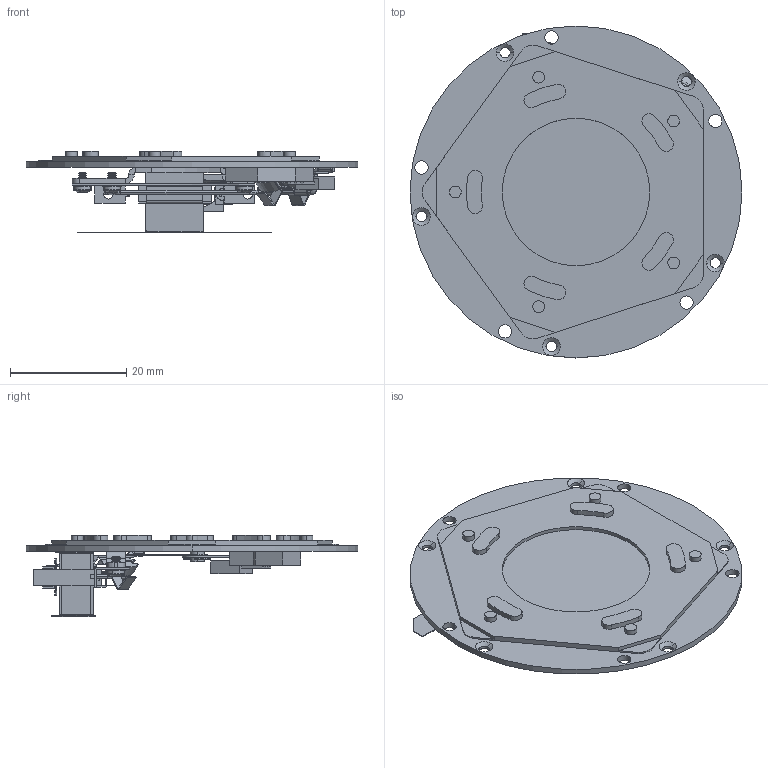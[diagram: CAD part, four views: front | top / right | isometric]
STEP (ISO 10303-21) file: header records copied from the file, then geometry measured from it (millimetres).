
FILE_DESCRIPTION (( 'STEP AP214' ), '1' );
FILE_NAME ('CS25 STD dumb.STEP', '2013-07-17T14:18:11', ( 'helen' ), ( 'Microsoft' ), 'SwSTEP 2.0', 'SolidWorks 2010', '' );
FILE_SCHEMA (( 'AUTOMOTIVE_DESIGN' ));
Length unit declared in the file: inch
Products named in the file (1): CS25 STD dumb
Bounding box: 57.15 x 57.15 x 14.03 mm (x, y, z)
Volume: 4814.8 mm3; surface area: 9642.1 mm2
Topology: 25 solids, 26 shells, 1112 faces, 2740 edges, 1690 vertices
Faces by surface type: plane 524, cylinder 389, cone 100, torus 71, sphere 20, bspline 8
Entity records: 47982 total; most frequent: CARTESIAN_POINT 6155, DIRECTION 6000, ORIENTED_EDGE 5456, EDGE_CURVE 2728, AXIS2_PLACEMENT_3D 2229, VERTEX_POINT 1686, VECTOR 1542, LINE 1542
